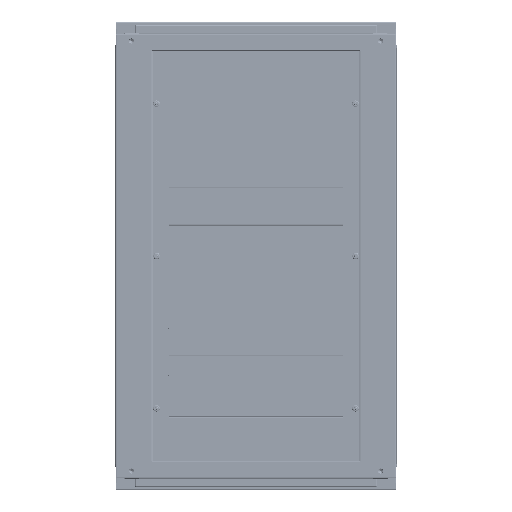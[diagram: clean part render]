
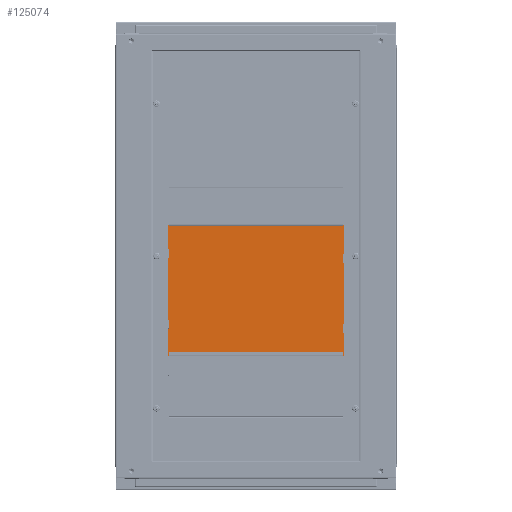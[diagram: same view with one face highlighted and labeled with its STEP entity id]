
A CAD part, front view. The second image highlights one B-rep face of the part: STEP entity #125074.
In plain terms, the highlighted planar face has unit normal (0, -1, 0) as drawn and (0, 1, 0) by its records, which use the part's own axes.
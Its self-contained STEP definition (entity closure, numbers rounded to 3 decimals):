
#167 = VECTOR ( 'NONE', #91758, 1000. ) ;
#191 = PLANE ( 'NONE',  #34933 ) ;
#22189 = CARTESIAN_POINT ( 'NONE',  ( 185., 0., 147.25 ) ) ;
#24280 = VERTEX_POINT ( 'NONE', #224754 ) ;
#28994 = VECTOR ( 'NONE', #55570, 1000. ) ;
#30146 = CARTESIAN_POINT ( 'NONE',  ( -185., 0., 147.25 ) ) ;
#33521 = CARTESIAN_POINT ( 'NONE',  ( -200., 0., 149. ) ) ;
#34427 = ORIENTED_EDGE ( 'NONE', *, *, #86081, .T. ) ;
#34933 = AXIS2_PLACEMENT_3D ( 'NONE', #205759, #68667, #121131 ) ;
#39407 = VERTEX_POINT ( 'NONE', #191886 ) ;
#39417 = ORIENTED_EDGE ( 'NONE', *, *, #212780, .F. ) ;
#41966 = VERTEX_POINT ( 'NONE', #186990 ) ;
#42299 = LINE ( 'NONE', #94755, #90712 ) ;
#49225 = VERTEX_POINT ( 'NONE', #86742 ) ;
#49524 = LINE ( 'NONE', #33521, #54851 ) ;
#54851 = VECTOR ( 'NONE', #152295, 1000. ) ;
#55570 = DIRECTION ( 'NONE',  ( 0., 0., 1. ) ) ;
#67053 = ORIENTED_EDGE ( 'NONE', *, *, #172575, .T. ) ;
#68667 = DIRECTION ( 'NONE',  ( 0., 1., 0. ) ) ;
#69627 = CARTESIAN_POINT ( 'NONE',  ( 200., 0., -149. ) ) ;
#70643 = VECTOR ( 'NONE', #190631, 1000. ) ;
#71478 = ORIENTED_EDGE ( 'NONE', *, *, #180605, .F. ) ;
#73568 = LINE ( 'NONE', #22189, #167 ) ;
#86081 = EDGE_CURVE ( 'NONE', #24280, #41966, #172312, .T. ) ;
#86742 = CARTESIAN_POINT ( 'NONE',  ( 185., 0., 147.25 ) ) ;
#88968 = DIRECTION ( 'NONE',  ( 0., 0., -1. ) ) ;
#90622 = VERTEX_POINT ( 'NONE', #201391 ) ;
#90712 = VECTOR ( 'NONE', #181650, 1000. ) ;
#91758 = DIRECTION ( 'NONE',  ( -1., 0., 0. ) ) ;
#94755 = CARTESIAN_POINT ( 'NONE',  ( 185., 0., 149. ) ) ;
#96670 = VERTEX_POINT ( 'NONE', #210635 ) ;
#98611 = LINE ( 'NONE', #30146, #134222 ) ;
#101440 = CARTESIAN_POINT ( 'NONE',  ( -200., 0., 149. ) ) ;
#108494 = DIRECTION ( 'NONE',  ( -1., 0., 0. ) ) ;
#110552 = EDGE_CURVE ( 'NONE', #220968, #39407, #176602, .T. ) ;
#110764 = CARTESIAN_POINT ( 'NONE',  ( -200., 0., -149. ) ) ;
#111935 = VECTOR ( 'NONE', #108494, 1000. ) ;
#116980 = EDGE_CURVE ( 'NONE', #49225, #96670, #73568, .T. ) ;
#118417 = ORIENTED_EDGE ( 'NONE', *, *, #126590, .T. ) ;
#121131 = DIRECTION ( 'NONE',  ( 0., 0., 1. ) ) ;
#125074 = ADVANCED_FACE ( 'NONE', ( #155401 ), #191, .T. ) ;
#126590 = EDGE_CURVE ( 'NONE', #90622, #220968, #196532, .T. ) ;
#127050 = ORIENTED_EDGE ( 'NONE', *, *, #116980, .F. ) ;
#129512 = ORIENTED_EDGE ( 'NONE', *, *, #190312, .T. ) ;
#129658 = CARTESIAN_POINT ( 'NONE',  ( -200., 0., -149. ) ) ;
#134222 = VECTOR ( 'NONE', #153409, 1000. ) ;
#139282 = LINE ( 'NONE', #69627, #151645 ) ;
#142304 = CARTESIAN_POINT ( 'NONE',  ( -200., 0., -149. ) ) ;
#151645 = VECTOR ( 'NONE', #88968, 1000. ) ;
#152295 = DIRECTION ( 'NONE',  ( 1., 0., 0. ) ) ;
#153409 = DIRECTION ( 'NONE',  ( 0., 0., 1. ) ) ;
#155401 = FACE_OUTER_BOUND ( 'NONE', #164897, .T. ) ;
#158885 = CARTESIAN_POINT ( 'NONE',  ( -185., 0., 149. ) ) ;
#164897 = EDGE_LOOP ( 'NONE', ( #127050, #39417, #34427, #129512, #118417, #223137, #67053, #71478 ) ) ;
#172312 = LINE ( 'NONE', #101440, #70643 ) ;
#172575 = EDGE_CURVE ( 'NONE', #39407, #219063, #49524, .T. ) ;
#176602 = LINE ( 'NONE', #142304, #28994 ) ;
#180605 = EDGE_CURVE ( 'NONE', #96670, #219063, #98611, .T. ) ;
#181650 = DIRECTION ( 'NONE',  ( 0., 0., -1. ) ) ;
#186990 = CARTESIAN_POINT ( 'NONE',  ( 200., 0., 149. ) ) ;
#190312 = EDGE_CURVE ( 'NONE', #41966, #90622, #139282, .T. ) ;
#190631 = DIRECTION ( 'NONE',  ( 1., 0., 0. ) ) ;
#191886 = CARTESIAN_POINT ( 'NONE',  ( -200., 0., 149. ) ) ;
#196532 = LINE ( 'NONE', #110764, #111935 ) ;
#201391 = CARTESIAN_POINT ( 'NONE',  ( 200., 0., -149. ) ) ;
#205759 = CARTESIAN_POINT ( 'NONE',  ( 200., 0., 149. ) ) ;
#210635 = CARTESIAN_POINT ( 'NONE',  ( -185., 0., 147.25 ) ) ;
#212780 = EDGE_CURVE ( 'NONE', #24280, #49225, #42299, .T. ) ;
#219063 = VERTEX_POINT ( 'NONE', #158885 ) ;
#220968 = VERTEX_POINT ( 'NONE', #129658 ) ;
#223137 = ORIENTED_EDGE ( 'NONE', *, *, #110552, .T. ) ;
#224754 = CARTESIAN_POINT ( 'NONE',  ( 185., 0., 149. ) ) ;
